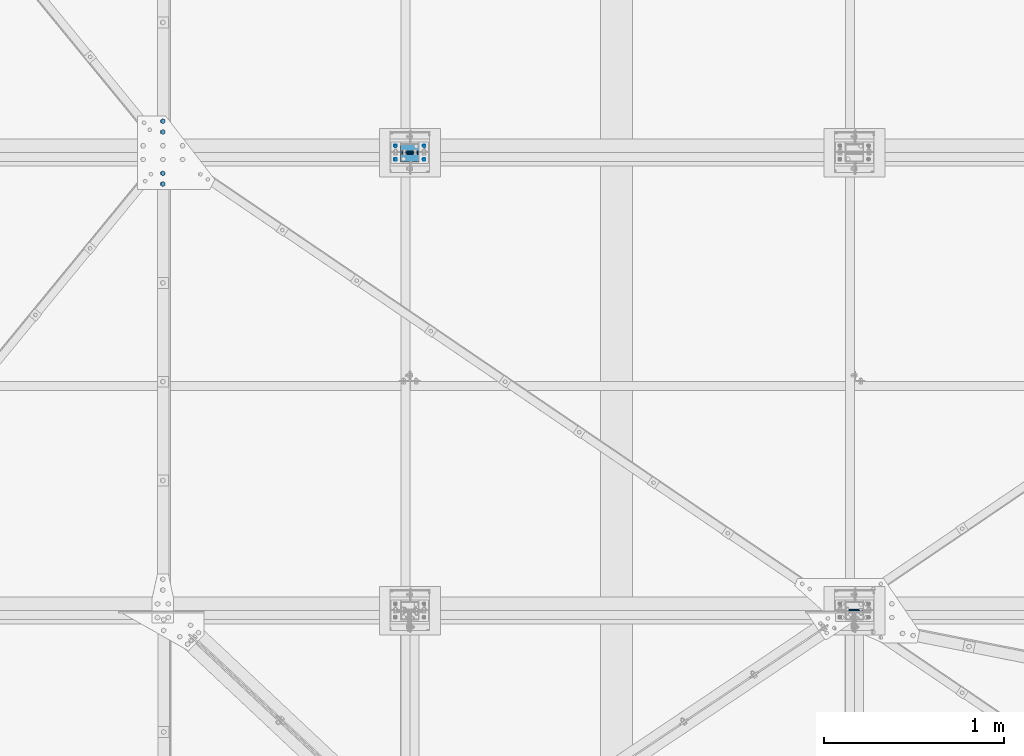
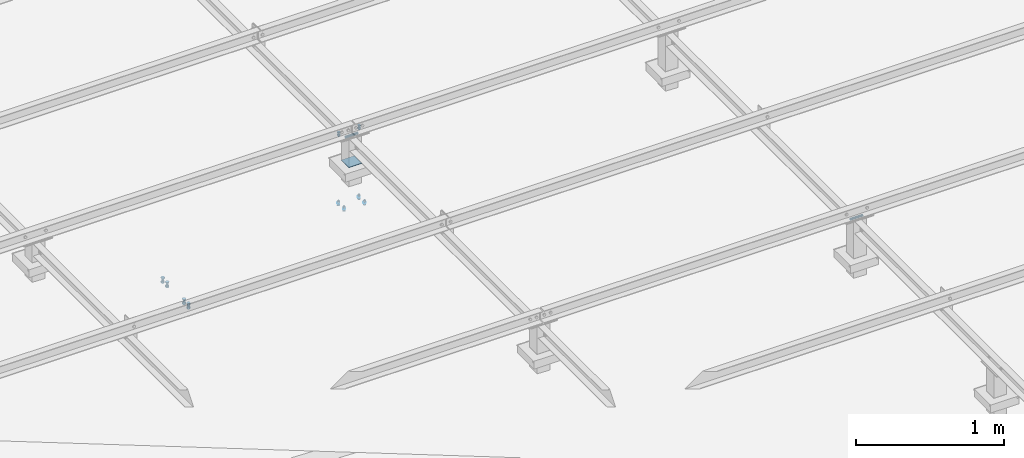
# One storey, part 316 of 3134: 8 mechanical fasteners, 7 elements without a shape of their own.
"""IFC2X3 building model written with IfcOpenShell, lengths in millimetres."""

from ifc_helpers import new_model, si_unit, frame, origin_with_axes, place, context, subcontext, project, spatial, faceted_brep, source, transform, mapped, material, type_object, element, aggregate, save


model = new_model("IFC2X3")

# Units and contexts
model_context = context("Model", 3, precision=1e-05, world=origin_with_axes())
body_context = subcontext(model_context, "Body", "Model", "MODEL_VIEW")
ifc_project = project(units=[si_unit("LENGTHUNIT", "METRE", prefix="MILLI"), si_unit("AREAUNIT", "SQUARE_METRE"), si_unit("VOLUMEUNIT", "CUBIC_METRE"), si_unit("MASSUNIT", "GRAM", prefix="KILO"), si_unit("TIMEUNIT", "SECOND"), si_unit("PLANEANGLEUNIT", "RADIAN"), si_unit("SOLIDANGLEUNIT", "STERADIAN"), si_unit("THERMODYNAMICTEMPERATUREUNIT", "DEGREE_CELSIUS"), si_unit("LUMINOUSINTENSITYUNIT", "LUMEN")], contexts=[model_context])

# Site, building, storey
site_placement = place(None, origin_with_axes())
site = spatial("IfcSite", under=ifc_project, at=site_placement, CompositionType="ELEMENT")
building_placement = place(site_placement, origin_with_axes())
building = spatial("IfcBuilding", under=site, at=building_placement, Name="Undefined", CompositionType="ELEMENT")
storey_placement = place(building_placement, origin_with_axes())
storey = spatial("IfcBuildingStorey", under=building, at=storey_placement, Name="Undefined", CompositionType="ELEMENT", Elevation=0.0)

# Assembly, mechanical fastener
assembly_1_placement = place(storey_placement, origin_with_axes())
assembly_1 = element("IfcElementAssembly", 1, at=assembly_1_placement, inside=storey, AssemblyPlace="NOTDEFINED", PredefinedType="RIGID_FRAME")
ifc_material_1 = material(Name="8.8")
mechanical_fastener_type = type_object("IfcMechanicalFastenerType", Name="Bolt assembly")
shared_shape_1 = source(origin_with_axes(), body_context, "Body", "Brep", [
    faceted_brep([(10.9696551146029, -14.0, 0.0), (5.48482755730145, -14.0, 9.5), (-5.48482755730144, -14.0, 9.5), (-10.9696551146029, -14.0, 1.34339530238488e-15), (-5.48482755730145, -14.0, -9.5), (5.48482755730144, -14.0, -9.50000000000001), (5.48482755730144, -6.0, -9.50000000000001), (-5.48482755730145, -6.0, -9.5), (-10.9696551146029, -6.0, 1.34339530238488e-15), (-5.48482755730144, -6.0, 9.5), (5.48482755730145, -6.0, 9.5), (10.9696551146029, -6.0, 0.0), (6.0, -6.0, 0.0), (5.19615242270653, -6.0, 3.00000000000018), (2.99999999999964, -6.0, 5.19615242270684), (-6.21801588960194e-13, -6.0, 6.0), (-3.00000000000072, -6.0, 5.19615242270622), (-5.19615242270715, -6.0, 2.9999999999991), (-6.0, -6.0, -1.24360317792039e-12), (-5.19615242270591, -6.0, -3.00000000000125), (-2.99999999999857, -6.0, -5.19615242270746), (1.85874342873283e-12, -6.0, -6.0), (3.00000000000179, -6.0, -5.1961524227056), (5.19615242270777, -6.0, -2.99999999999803), (5.19615242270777, 24.0, -2.99999999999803), (3.00000000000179, 24.0, -5.1961524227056), (1.85874342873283e-12, 24.0, -6.0), (-2.99999999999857, 24.0, -5.19615242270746), (-5.19615242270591, 24.0, -3.00000000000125), (-6.0, 24.0, -1.24360317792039e-12), (-5.19615242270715, 24.0, 2.9999999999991), (-3.00000000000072, 24.0, 5.19615242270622), (-6.21801588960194e-13, 24.0, 6.0), (2.99999999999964, 24.0, 5.19615242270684), (5.19615242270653, 24.0, 3.00000000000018), (6.0, 24.0, 0.0), (10.9696551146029, 6.00000000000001, 0.0), (5.48482755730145, 6.00000000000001, 9.5), (-5.48482755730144, 6.00000000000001, 9.5), (-10.9696551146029, 6.00000000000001, 1.34339530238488e-15), (-5.48482755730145, 6.00000000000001, -9.5), (5.48482755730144, 6.00000000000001, -9.50000000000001), (5.48482755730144, 16.0, -9.50000000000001), (-5.48482755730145, 16.0, -9.5), (-10.9696551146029, 16.0, 1.34339530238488e-15), (-5.48482755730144, 16.0, 9.5), (5.48482755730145, 16.0, 9.5), (10.9696551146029, 16.0, 0.0)], [[[0, 1, 2, 3, 4, 5]], [[6, 7, 8, 9, 10, 11]], [[0, 11, 10, 1]], [[1, 10, 9, 2]], [[2, 9, 8, 3]], [[3, 8, 7, 4]], [[4, 7, 6, 5]], [[5, 6, 11, 0]], [[12, 13, 14, 15, 16, 17, 18, 19, 20, 21, 22, 23]], [[24, 25, 26, 27, 28, 29, 30, 31, 32, 33, 34, 35]], [[12, 35, 34, 13]], [[13, 34, 33, 14]], [[14, 33, 32, 15]], [[15, 32, 31, 16]], [[16, 31, 30, 17]], [[17, 30, 29, 18]], [[18, 29, 28, 19]], [[19, 28, 27, 20]], [[20, 27, 26, 21]], [[21, 26, 25, 22]], [[22, 25, 24, 23]], [[23, 24, 35, 12]], [[36, 37, 38, 39, 40, 41]], [[42, 43, 44, 45, 46, 47]], [[36, 47, 46, 37]], [[37, 46, 45, 38]], [[38, 45, 44, 39]], [[39, 44, 43, 40]], [[40, 43, 42, 41]], [[41, 42, 47, 36]]]),
    faceted_brep([(7.0, -0.1, 0.0), (6.06217782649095, -0.1, 3.50000000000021), (3.49999999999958, -0.1, 6.06217782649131), (-7.25435187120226e-13, -0.1, 7.0), (-3.50000000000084, -0.1, 6.06217782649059), (-6.06217782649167, -0.1, 3.49999999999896), (-7.0, -0.1, -1.45087037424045e-12), (-6.06217782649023, -0.1, -3.50000000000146), (-3.49999999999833, -0.1, -6.06217782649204), (2.1685340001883e-12, -0.1, -7.0), (3.50000000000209, -0.1, -6.06217782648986), (6.0621778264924, -0.1, -3.4999999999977), (6.0621778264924, 6.00000000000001, -3.4999999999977), (3.50000000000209, 6.00000000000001, -6.06217782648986), (2.1685340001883e-12, 6.00000000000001, -7.0), (-3.49999999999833, 6.00000000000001, -6.06217782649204), (-6.06217782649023, 6.00000000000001, -3.50000000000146), (-7.0, 6.00000000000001, -1.45087037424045e-12), (-6.06217782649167, 6.00000000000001, 3.49999999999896), (-3.50000000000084, 6.00000000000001, 6.06217782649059), (-7.25435187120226e-13, 6.00000000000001, 7.0), (3.49999999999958, 6.00000000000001, 6.06217782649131), (6.06217782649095, 6.00000000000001, 3.50000000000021), (7.0, 6.00000000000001, 0.0), (7.0, -5.9, 0.0), (6.06217782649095, -5.9, 3.50000000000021), (3.49999999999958, -5.9, 6.06217782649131), (-7.25435187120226e-13, -5.9, 7.0), (-3.50000000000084, -5.9, 6.06217782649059), (-6.06217782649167, -5.9, 3.49999999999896), (-7.0, -5.9, -1.45087037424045e-12), (-6.06217782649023, -5.9, -3.50000000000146), (-3.49999999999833, -5.9, -6.06217782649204), (2.1685340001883e-12, -5.9, -7.0), (3.50000000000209, -5.9, -6.06217782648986), (6.0621778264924, -5.9, -3.4999999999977), (6.0621778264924, 0.0999999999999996, -3.4999999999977), (3.50000000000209, 0.0999999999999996, -6.06217782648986), (2.1685340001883e-12, 0.0999999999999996, -7.0), (-3.49999999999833, 0.0999999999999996, -6.06217782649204), (-6.06217782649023, 0.0999999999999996, -3.50000000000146), (-7.0, 0.0999999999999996, -1.45087037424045e-12), (-6.06217782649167, 0.0999999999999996, 3.49999999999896), (-3.50000000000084, 0.0999999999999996, 6.06217782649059), (-7.25435187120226e-13, 0.0999999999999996, 7.0), (3.49999999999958, 0.0999999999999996, 6.06217782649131), (6.06217782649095, 0.0999999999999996, 3.50000000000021), (7.0, 0.0999999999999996, 0.0)], [[[0, 1, 2, 3, 4, 5, 6, 7, 8, 9, 10, 11]], [[12, 13, 14, 15, 16, 17, 18, 19, 20, 21, 22, 23]], [[0, 23, 22, 1]], [[1, 22, 21, 2]], [[2, 21, 20, 3]], [[3, 20, 19, 4]], [[4, 19, 18, 5]], [[5, 18, 17, 6]], [[6, 17, 16, 7]], [[7, 16, 15, 8]], [[8, 15, 14, 9]], [[9, 14, 13, 10]], [[10, 13, 12, 11]], [[11, 12, 23, 0]], [[24, 25, 26, 27, 28, 29, 30, 31, 32, 33, 34, 35]], [[36, 37, 38, 39, 40, 41, 42, 43, 44, 45, 46, 47]], [[24, 47, 46, 25]], [[25, 46, 45, 26]], [[26, 45, 44, 27]], [[27, 44, 43, 28]], [[28, 43, 42, 29]], [[29, 42, 41, 30]], [[30, 41, 40, 31]], [[31, 40, 39, 32]], [[32, 39, 38, 33]], [[33, 38, 37, 34]], [[34, 37, 36, 35]], [[35, 36, 47, 24]]]),
])
mechanical_fastener_1_placement = place(assembly_1_placement, frame((73075.0, 5135.0, 5850.0), z_axis=(1.0, 0.0, 0.0), x_axis=(0.0, -1.0, 0.0)))
mechanical_fastener_1 = element("IfcMechanicalFastener", 2, at=mechanical_fastener_1_placement, type_object=mechanical_fastener_type, material=ifc_material_1, Name="Bolt assembly", NominalDiameter=12.0, NominalLength=30.0, context=body_context, shape_type="MappedRepresentation", body=[
    mapped(shared_shape_1, transform((0.0, -5.32963895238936e-10, -79.9999999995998))),
    mapped(shared_shape_1, transform((0.0, 5.3114490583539e-10, 79.9999999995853))),
])
aggregate(assembly_1, [mechanical_fastener_1])

assembly_2_placement = place(storey_placement, origin_with_axes())
assembly_2 = element("IfcElementAssembly", 3, at=assembly_2_placement, inside=storey, AssemblyPlace="NOTDEFINED", PredefinedType="RIGID_FRAME")
shared_shape_2 = source(origin_with_axes(), body_context, "Body", "Brep", [
    faceted_brep([(7.0, 13.0000253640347, 0.0), (6.06217782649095, 13.0000253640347, 3.50000000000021), (3.49999999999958, 13.0000253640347, 6.06217782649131), (-7.25435187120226e-13, 13.0000253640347, 7.0), (-3.50000000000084, 13.0000253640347, 6.06217782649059), (-6.06217782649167, 13.0000253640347, 3.49999999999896), (-7.0, 13.0000253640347, -1.45087037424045e-12), (-6.06217782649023, 13.0000253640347, -3.50000000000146), (-3.49999999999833, 13.0000253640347, -6.06217782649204), (2.1685340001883e-12, 13.0000253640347, -7.0), (3.50000000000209, 13.0000253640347, -6.06217782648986), (6.0621778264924, 13.0000253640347, -3.4999999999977), (6.0621778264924, 15.0999999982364, -3.4999999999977), (3.50000000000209, 15.0999999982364, -6.06217782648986), (2.1685340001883e-12, 15.0999999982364, -7.0), (-3.49999999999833, 15.0999999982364, -6.06217782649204), (-6.06217782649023, 15.0999999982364, -3.50000000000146), (-7.0, 15.0999999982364, -1.45087037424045e-12), (-6.06217782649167, 15.0999999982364, 3.49999999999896), (-3.50000000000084, 15.0999999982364, 6.06217782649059), (-7.25435187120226e-13, 15.0999999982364, 7.0), (3.49999999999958, 15.0999999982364, 6.06217782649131), (6.06217782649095, 15.0999999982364, 3.50000000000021), (7.0, 15.0999999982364, 0.0)], [[[0, 1, 2, 3, 4, 5, 6, 7, 8, 9, 10, 11]], [[12, 13, 14, 15, 16, 17, 18, 19, 20, 21, 22, 23]], [[0, 23, 22, 1]], [[1, 22, 21, 2]], [[2, 21, 20, 3]], [[3, 20, 19, 4]], [[4, 19, 18, 5]], [[5, 18, 17, 6]], [[6, 17, 16, 7]], [[7, 16, 15, 8]], [[8, 15, 14, 9]], [[9, 14, 13, 10]], [[10, 13, 12, 11]], [[11, 12, 23, 0]]]),
])
mechanical_fastener_2_placement = place(assembly_2_placement, frame((73074.3451187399, 5138.0, 5255.7372055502), z_axis=(-0.99951962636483, 0.0, 0.0309922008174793), x_axis=(0.0, -1.0, 0.0)))
mechanical_fastener_2 = element("IfcMechanicalFastener", 4, at=mechanical_fastener_2_placement, type_object=mechanical_fastener_type, material=ifc_material_1, Name="Bolt assembly", NominalDiameter=12.0, NominalLength=2.0, context=body_context, shape_type="MappedRepresentation", body=[
    mapped(shared_shape_2, transform((0.0, -5.32963895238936e-10, -79.9999999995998))),
    mapped(shared_shape_2, transform((76.0, -5.32963895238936e-10, -79.9999999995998))),
    mapped(shared_shape_2, transform((0.0, 5.3114490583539e-10, 79.9999999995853))),
    mapped(shared_shape_2, transform((76.0, 5.3114490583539e-10, 79.9999999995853))),
])
aggregate(assembly_2, [mechanical_fastener_2])

assembly_3_placement = place(storey_placement, origin_with_axes())
assembly_3 = element("IfcElementAssembly", 5, at=assembly_3_placement, inside=storey, AssemblyPlace="NOTDEFINED", PredefinedType="RIGID_FRAME")
shared_shape_3 = source(origin_with_axes(), body_context, "Body", "Brep", [
    faceted_brep([(9.0, -50.0, 0.0), (7.79422863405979, -50.0, 4.50000000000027), (4.49999999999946, -50.0, 7.79422863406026), (-9.3270238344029e-13, -50.0, 9.0), (-4.50000000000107, -50.0, 7.79422863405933), (-7.79422863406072, -50.0, 4.49999999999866), (-9.0, -50.0, -1.86540476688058e-12), (-7.79422863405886, -50.0, -4.50000000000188), (-4.49999999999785, -50.0, -7.79422863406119), (2.78811514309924e-12, -50.0, -9.0), (4.50000000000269, -50.0, -7.7942286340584), (7.79422863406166, -50.0, -4.49999999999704), (7.79422863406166, 50.1, -4.49999999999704), (4.50000000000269, 50.1, -7.7942286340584), (2.78811514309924e-12, 50.1, -9.0), (-4.49999999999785, 50.1, -7.79422863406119), (-7.79422863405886, 50.1, -4.50000000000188), (-9.0, 50.1, -1.86540476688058e-12), (-7.79422863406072, 50.1, 4.49999999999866), (-4.50000000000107, 50.1, 7.79422863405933), (-9.3270238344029e-13, 50.1, 9.0), (4.49999999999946, 50.1, 7.79422863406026), (7.79422863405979, 50.1, 4.50000000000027), (9.0, 50.1, 0.0)], [[[0, 1, 2, 3, 4, 5, 6, 7, 8, 9, 10, 11]], [[12, 13, 14, 15, 16, 17, 18, 19, 20, 21, 22, 23]], [[0, 23, 22, 1]], [[1, 22, 21, 2]], [[2, 21, 20, 3]], [[3, 20, 19, 4]], [[4, 19, 18, 5]], [[5, 18, 17, 6]], [[6, 17, 16, 7]], [[7, 16, 15, 8]], [[8, 15, 14, 9]], [[9, 14, 13, 10]], [[10, 13, 12, 11]], [[11, 12, 23, 0]]]),
])
mechanical_fastener_3_placement = place(assembly_3_placement, frame((75550.0, 2550.0, 5830.0), z_axis=(0.0, 1.0, 0.0), x_axis=(0.0, 0.0, 1.0)))
mechanical_fastener_3 = element("IfcMechanicalFastener", 6, at=mechanical_fastener_3_placement, type_object=mechanical_fastener_type, material=ifc_material_1, Name="Bolt assembly", NominalDiameter=16.0, NominalLength=100.0, context=body_context, shape_type="MappedRepresentation", body=[
    mapped(shared_shape_3, transform((0.0, 0.0, 0.0))),
])
aggregate(assembly_3, [mechanical_fastener_3])

# Assembly, mechanical fasteners
assembly_4_placement = place(storey_placement, origin_with_axes())
assembly_4 = element("IfcElementAssembly", 7, at=assembly_4_placement, inside=storey, AssemblyPlace="NOTDEFINED", PredefinedType="RIGID_FRAME")
mechanical_fastener_4_placement = place(assembly_4_placement, frame((73075.0, 5100.0, 5830.0), z_axis=(0.0, 1.0, 0.0), x_axis=(0.0, 0.0, 1.0)))
mechanical_fastener_4 = element("IfcMechanicalFastener", 8, at=mechanical_fastener_4_placement, type_object=mechanical_fastener_type, material=ifc_material_1, Name="Bolt assembly", NominalDiameter=16.0, NominalLength=100.0, context=body_context, shape_type="MappedRepresentation", body=[
    mapped(shared_shape_3, transform((0.0, 0.0, 0.0))),
])
ifc_material_2 = material(Name="6.8")
shared_shape_4 = source(origin_with_axes(), body_context, "Body", "Brep", [
    faceted_brep([(51.5, 1.36424205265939e-12, 50.0), (51.3858192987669, 1.36424205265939e-12, 50.5740251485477), (51.0606601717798, 1.36424205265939e-12, 51.0606601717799), (50.5740251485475, 1.36424205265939e-12, 51.385819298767), (-50.0000000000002, 1.36424205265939e-12, 51.5), (-50.7500000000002, 1.36424205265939e-12, 51.2990381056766), (-51.2990381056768, 1.36424205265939e-12, 50.7499999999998), (-51.5, 1.36424205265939e-12, 49.9999999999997), (-51.5, 1.36424205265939e-12, -50.0000000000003), (-51.2990381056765, 1.36424205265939e-12, -50.7500000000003), (-50.7499999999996, 1.36424205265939e-12, -51.2990381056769), (-49.9999999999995, 1.36424205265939e-12, -51.5), (50.0000000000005, 1.36424205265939e-12, -51.5), (50.7500000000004, 1.36424205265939e-12, -51.2990381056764), (51.2990381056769, 1.36424205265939e-12, -50.7499999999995), (51.5, 1.36424205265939e-12, -49.9999999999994), (51.5, 5.10000000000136, -49.9999999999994), (51.2990381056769, 5.10000000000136, -50.7499999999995), (50.7500000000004, 5.10000000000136, -51.2990381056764), (50.0000000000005, 5.10000000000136, -51.5), (-49.9999999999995, 5.10000000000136, -51.5), (-50.7499999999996, 5.10000000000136, -51.2990381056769), (-51.2990381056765, 5.10000000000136, -50.7500000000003), (-51.5, 5.10000000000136, -50.0000000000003), (-51.5, 5.10000000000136, 49.9999999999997), (-51.2990381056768, 5.10000000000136, 50.7499999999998), (-50.7500000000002, 5.10000000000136, 51.2990381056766), (-50.0000000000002, 5.10000000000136, 51.5), (50.5740251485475, 5.10000000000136, 51.385819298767), (51.0606601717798, 5.10000000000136, 51.0606601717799), (51.3858192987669, 5.10000000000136, 50.5740251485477), (51.5, 5.10000000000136, 50.0)], [[[0, 1, 2, 3, 4, 5, 6, 7, 8, 9, 10, 11, 12, 13, 14, 15]], [[16, 17, 18, 19, 20, 21, 22, 23, 24, 25, 26, 27, 28, 29, 30, 31]], [[0, 31, 30, 1]], [[1, 30, 29, 2]], [[2, 29, 28, 3]], [[3, 28, 27, 4]], [[4, 27, 26, 5]], [[5, 26, 25, 6]], [[6, 25, 24, 7]], [[7, 24, 23, 8]], [[8, 23, 22, 9]], [[9, 22, 21, 10]], [[10, 21, 20, 11]], [[11, 20, 19, 12]], [[12, 19, 18, 13]], [[13, 18, 17, 14]], [[14, 17, 16, 15]], [[15, 16, 31, 0]]]),
])
mechanical_fastener_5_placement = place(assembly_4_placement, frame((73075.0, 5100.0, 5610.44), z_axis=(0.0, -1.0, 0.0), x_axis=(-1.0, 0.0, 0.0)))
mechanical_fastener_5 = element("IfcMechanicalFastener", 9, at=mechanical_fastener_5_placement, type_object=mechanical_fastener_type, material=ifc_material_2, Name="Bolt assembly", NominalDiameter=10.0, NominalLength=5.0, context=body_context, shape_type="MappedRepresentation", body=[
    mapped(shared_shape_4, transform((0.0, 0.0, 0.0))),
])
aggregate(assembly_4, [mechanical_fastener_4, mechanical_fastener_5])

# Assembly, mechanical fastener
assembly_5_placement = place(storey_placement, origin_with_axes())
assembly_5 = element("IfcElementAssembly", 10, at=assembly_5_placement, inside=storey, Name="300", AssemblyPlace="NOTDEFINED", PredefinedType="RIGID_FRAME")
shared_shape_5 = source(origin_with_axes(), body_context, "Body", "Brep", [
    faceted_brep([(10.9696551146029, -10.2005277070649, 0.0), (5.48482755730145, -10.2005277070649, 9.5), (-5.48482755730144, -10.2005277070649, 9.5), (-10.9696551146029, -10.2005277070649, 1.34339530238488e-15), (-5.48482755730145, -10.2005277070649, -9.5), (5.48482755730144, -10.2005277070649, -9.50000000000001), (5.48482755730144, -2.20052770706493, -9.50000000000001), (-5.48482755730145, -2.20052770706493, -9.5), (-10.9696551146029, -2.20052770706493, 1.34339530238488e-15), (-5.48482755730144, -2.20052770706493, 9.5), (5.48482755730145, -2.20052770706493, 9.5), (10.9696551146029, -2.20052770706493, 0.0), (6.0, -2.20052770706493, 0.0), (5.19615242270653, -2.20052770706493, 3.00000000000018), (2.99999999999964, -2.20052770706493, 5.19615242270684), (-6.21801588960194e-13, -2.20052770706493, 6.0), (-3.00000000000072, -2.20052770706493, 5.19615242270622), (-5.19615242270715, -2.20052770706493, 2.9999999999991), (-6.0, -2.20052770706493, -1.24360317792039e-12), (-5.19615242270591, -2.20052770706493, -3.00000000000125), (-2.99999999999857, -2.20052770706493, -5.19615242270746), (1.85874342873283e-12, -2.20052770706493, -6.0), (3.00000000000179, -2.20052770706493, -5.1961524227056), (5.19615242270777, -2.20052770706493, -2.99999999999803), (5.19615242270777, 32.7994722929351, -2.99999999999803), (3.00000000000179, 32.7994722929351, -5.1961524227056), (1.85874342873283e-12, 32.7994722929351, -6.0), (-2.99999999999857, 32.7994722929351, -5.19615242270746), (-5.19615242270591, 32.7994722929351, -3.00000000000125), (-6.0, 32.7994722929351, -1.24360317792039e-12), (-5.19615242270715, 32.7994722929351, 2.9999999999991), (-3.00000000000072, 32.7994722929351, 5.19615242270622), (-6.21801588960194e-13, 32.7994722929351, 6.0), (2.99999999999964, 32.7994722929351, 5.19615242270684), (5.19615242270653, 32.7994722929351, 3.00000000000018), (6.0, 32.7994722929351, 0.0), (10.9696551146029, 17.0008987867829, 0.0), (5.48482755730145, 17.0008987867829, 9.5), (-5.48482755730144, 17.0008987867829, 9.5), (-10.9696551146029, 17.0008987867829, 1.34339530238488e-15), (-5.48482755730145, 17.0008987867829, -9.5), (5.48482755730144, 17.0008987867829, -9.50000000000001), (5.48482755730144, 27.0008987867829, -9.50000000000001), (-5.48482755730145, 27.0008987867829, -9.5), (-10.9696551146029, 27.0008987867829, 1.34339530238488e-15), (-5.48482755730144, 27.0008987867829, 9.5), (5.48482755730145, 27.0008987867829, 9.5), (10.9696551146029, 27.0008987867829, 0.0)], [[[0, 1, 2, 3, 4, 5]], [[6, 7, 8, 9, 10, 11]], [[0, 11, 10, 1]], [[1, 10, 9, 2]], [[2, 9, 8, 3]], [[3, 8, 7, 4]], [[4, 7, 6, 5]], [[5, 6, 11, 0]], [[12, 13, 14, 15, 16, 17, 18, 19, 20, 21, 22, 23]], [[24, 25, 26, 27, 28, 29, 30, 31, 32, 33, 34, 35]], [[12, 35, 34, 13]], [[13, 34, 33, 14]], [[14, 33, 32, 15]], [[15, 32, 31, 16]], [[16, 31, 30, 17]], [[17, 30, 29, 18]], [[18, 29, 28, 19]], [[19, 28, 27, 20]], [[20, 27, 26, 21]], [[21, 26, 25, 22]], [[22, 25, 24, 23]], [[23, 24, 35, 12]], [[36, 37, 38, 39, 40, 41]], [[42, 43, 44, 45, 46, 47]], [[36, 47, 46, 37]], [[37, 46, 45, 38]], [[38, 45, 44, 39]], [[39, 44, 43, 40]], [[40, 43, 42, 41]], [[41, 42, 47, 36]]]),
    faceted_brep([(7.0, 8.90089878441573, 0.0), (6.06217782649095, 8.90089878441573, 3.50000000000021), (3.49999999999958, 8.90089878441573, 6.06217782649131), (-7.25435187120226e-13, 8.90089878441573, 7.0), (-3.50000000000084, 8.90089878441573, 6.06217782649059), (-6.06217782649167, 8.90089878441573, 3.49999999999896), (-7.0, 8.90089878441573, -1.45087037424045e-12), (-6.06217782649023, 8.90089878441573, -3.50000000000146), (-3.49999999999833, 8.90089878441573, -6.06217782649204), (2.1685340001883e-12, 8.90089878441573, -7.0), (3.50000000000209, 8.90089878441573, -6.06217782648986), (6.0621778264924, 8.90089878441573, -3.4999999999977), (6.0621778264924, 17.0008987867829, -3.4999999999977), (3.50000000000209, 17.0008987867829, -6.06217782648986), (2.1685340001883e-12, 17.0008987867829, -7.0), (-3.49999999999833, 17.0008987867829, -6.06217782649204), (-6.06217782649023, 17.0008987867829, -3.50000000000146), (-7.0, 17.0008987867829, -1.45087037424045e-12), (-6.06217782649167, 17.0008987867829, 3.49999999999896), (-3.50000000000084, 17.0008987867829, 6.06217782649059), (-7.25435187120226e-13, 17.0008987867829, 7.0), (3.49999999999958, 17.0008987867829, 6.06217782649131), (6.06217782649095, 17.0008987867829, 3.50000000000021), (7.0, 17.0008987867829, 0.0), (7.0, -2.10052770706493, 0.0), (6.06217782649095, -2.10052770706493, 3.50000000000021), (3.49999999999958, -2.10052770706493, 6.06217782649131), (-7.25435187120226e-13, -2.10052770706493, 7.0), (-3.50000000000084, -2.10052770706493, 6.06217782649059), (-6.06217782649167, -2.10052770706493, 3.49999999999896), (-7.0, -2.10052770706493, -1.45087037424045e-12), (-6.06217782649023, -2.10052770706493, -3.50000000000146), (-3.49999999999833, -2.10052770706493, -6.06217782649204), (2.1685340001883e-12, -2.10052770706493, -7.0), (3.50000000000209, -2.10052770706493, -6.06217782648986), (6.0621778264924, -2.10052770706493, -3.4999999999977), (6.0621778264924, 7.09947210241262, -3.4999999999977), (3.50000000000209, 7.09947210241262, -6.06217782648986), (2.1685340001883e-12, 7.09947210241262, -7.0), (-3.49999999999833, 7.09947210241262, -6.06217782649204), (-6.06217782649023, 7.09947210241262, -3.50000000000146), (-7.0, 7.09947210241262, -1.45087037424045e-12), (-6.06217782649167, 7.09947210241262, 3.49999999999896), (-3.50000000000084, 7.09947210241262, 6.06217782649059), (-7.25435187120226e-13, 7.09947210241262, 7.0), (3.49999999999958, 7.09947210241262, 6.06217782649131), (6.06217782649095, 7.09947210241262, 3.50000000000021), (7.0, 7.09947210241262, 0.0)], [[[0, 1, 2, 3, 4, 5, 6, 7, 8, 9, 10, 11]], [[12, 13, 14, 15, 16, 17, 18, 19, 20, 21, 22, 23]], [[0, 23, 22, 1]], [[1, 22, 21, 2]], [[2, 21, 20, 3]], [[3, 20, 19, 4]], [[4, 19, 18, 5]], [[5, 18, 17, 6]], [[6, 17, 16, 7]], [[7, 16, 15, 8]], [[8, 15, 14, 9]], [[9, 14, 13, 10]], [[10, 13, 12, 11]], [[11, 12, 23, 0]], [[24, 25, 26, 27, 28, 29, 30, 31, 32, 33, 34, 35]], [[36, 37, 38, 39, 40, 41, 42, 43, 44, 45, 46, 47]], [[24, 47, 46, 25]], [[25, 46, 45, 26]], [[26, 45, 44, 27]], [[27, 44, 43, 28]], [[28, 43, 42, 29]], [[29, 42, 41, 30]], [[30, 41, 40, 31]], [[31, 40, 39, 32]], [[32, 39, 38, 33]], [[33, 38, 37, 34]], [[34, 37, 36, 35]], [[35, 36, 47, 24]]]),
])
mechanical_fastener_6_placement = place(assembly_5_placement, frame((73074.5351187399, 5138.0, 5261.7372055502), z_axis=(-0.99951962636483, 0.0, 0.0309922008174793), x_axis=(0.0, -1.0, 0.0)))
mechanical_fastener_6 = element("IfcMechanicalFastener", 11, at=mechanical_fastener_6_placement, type_object=mechanical_fastener_type, material=ifc_material_1, Name="Bolt assembly", NominalDiameter=12.0, NominalLength=35.0, context=body_context, shape_type="MappedRepresentation", body=[
    mapped(shared_shape_5, transform((0.0, -5.32963895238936e-10, -79.9999999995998))),
    mapped(shared_shape_5, transform((76.0, -5.32963895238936e-10, -79.9999999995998))),
    mapped(shared_shape_5, transform((0.0, 5.3114490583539e-10, 79.9999999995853))),
    mapped(shared_shape_5, transform((76.0, 5.3114490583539e-10, 79.9999999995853))),
])
aggregate(assembly_5, [mechanical_fastener_6])

assembly_6_placement = place(storey_placement, origin_with_axes())
assembly_6 = element("IfcElementAssembly", 12, at=assembly_6_placement, inside=storey, AssemblyPlace="NOTDEFINED", PredefinedType="RIGID_FRAME")
shared_shape_6 = source(origin_with_axes(), body_context, "Body", "Brep", [
    faceted_brep([(13.856406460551, -21.0000017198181, 0.0), (6.92820323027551, -21.0000017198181, 12.0), (-6.92820323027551, -21.0000017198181, 12.0), (-13.856406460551, -21.0000017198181, 1.69692038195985e-15), (-6.92820323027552, -21.0000017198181, -12.0), (6.9282032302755, -21.0000017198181, -12.0), (6.9282032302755, -11.0000017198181, -12.0), (-6.92820323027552, -11.0000017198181, -12.0), (-13.856406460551, -11.0000017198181, 1.69692038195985e-15), (-6.92820323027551, -11.0000017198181, 12.0), (6.92820323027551, -11.0000017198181, 12.0), (13.856406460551, -11.0000017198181, 0.0), (8.0, -11.0000017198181, 0.0), (6.92820323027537, -11.0000017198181, 4.00000000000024), (3.99999999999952, -11.0000017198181, 6.92820323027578), (-8.29068785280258e-13, -11.0000017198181, 8.0), (-4.00000000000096, -11.0000017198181, 6.92820323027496), (-6.9282032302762, -11.0000017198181, 3.99999999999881), (-8.0, -11.0000017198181, -1.65813757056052e-12), (-6.92820323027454, -11.0000017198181, -4.00000000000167), (-3.99999999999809, -11.0000017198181, -6.92820323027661), (2.47832457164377e-12, -11.0000017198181, -8.0), (4.00000000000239, -11.0000017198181, -6.92820323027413), (6.92820323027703, -11.0000017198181, -3.99999999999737), (6.92820323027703, 29.0, -3.99999999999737), (4.00000000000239, 29.0, -6.92820323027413), (2.47832457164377e-12, 29.0, -8.0), (-3.99999999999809, 29.0, -6.92820323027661), (-6.92820323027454, 29.0, -4.00000000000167), (-8.0, 29.0, -1.65813757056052e-12), (-6.9282032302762, 29.0, 3.99999999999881), (-4.00000000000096, 29.0, 6.92820323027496), (-8.29068785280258e-13, 29.0, 8.0), (3.99999999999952, 29.0, 6.92820323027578), (6.92820323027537, 29.0, 4.00000000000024), (8.0, 29.0, 0.0), (13.856406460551, 10.9979999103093, 0.0), (6.92820323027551, 10.9979999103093, 12.0), (-6.92820323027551, 10.9979999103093, 12.0), (-13.856406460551, 10.9979999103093, 1.69692038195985e-15), (-6.92820323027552, 10.9979999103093, -12.0), (6.9282032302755, 10.9979999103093, -12.0), (6.9282032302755, 23.9979999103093, -12.0), (-6.92820323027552, 23.9979999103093, -12.0), (-13.856406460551, 23.9979999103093, 1.69692038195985e-15), (-6.92820323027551, 23.9979999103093, 12.0), (6.92820323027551, 23.9979999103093, 12.0), (13.856406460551, 23.9979999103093, 0.0)], [[[0, 1, 2, 3, 4, 5]], [[6, 7, 8, 9, 10, 11]], [[0, 11, 10, 1]], [[1, 10, 9, 2]], [[2, 9, 8, 3]], [[3, 8, 7, 4]], [[4, 7, 6, 5]], [[5, 6, 11, 0]], [[12, 13, 14, 15, 16, 17, 18, 19, 20, 21, 22, 23]], [[24, 25, 26, 27, 28, 29, 30, 31, 32, 33, 34, 35]], [[12, 35, 34, 13]], [[13, 34, 33, 14]], [[14, 33, 32, 15]], [[15, 32, 31, 16]], [[16, 31, 30, 17]], [[17, 30, 29, 18]], [[18, 29, 28, 19]], [[19, 28, 27, 20]], [[20, 27, 26, 21]], [[21, 26, 25, 22]], [[22, 25, 24, 23]], [[23, 24, 35, 12]], [[36, 37, 38, 39, 40, 41]], [[42, 43, 44, 45, 46, 47]], [[36, 47, 46, 37]], [[37, 46, 45, 38]], [[38, 45, 44, 39]], [[39, 44, 43, 40]], [[40, 43, 42, 41]], [[41, 42, 47, 36]]]),
    faceted_brep([(9.0, -10.9000017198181, 0.0), (7.79422863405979, -10.9000017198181, 4.50000000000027), (4.49999999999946, -10.9000017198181, 7.79422863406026), (-9.3270238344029e-13, -10.9000017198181, 9.0), (-4.50000000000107, -10.9000017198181, 7.79422863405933), (-7.79422863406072, -10.9000017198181, 4.49999999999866), (-9.0, -10.9000017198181, -1.86540476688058e-12), (-7.79422863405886, -10.9000017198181, -4.50000000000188), (-4.49999999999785, -10.9000017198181, -7.79422863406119), (2.78811514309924e-12, -10.9000017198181, -9.0), (4.50000000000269, -10.9000017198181, -7.7942286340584), (7.79422863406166, -10.9000017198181, -4.49999999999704), (7.79422863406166, -3.9, -4.49999999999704), (4.50000000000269, -3.9, -7.7942286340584), (2.78811514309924e-12, -3.9, -9.0), (-4.49999999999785, -3.9, -7.79422863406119), (-7.79422863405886, -3.9, -4.50000000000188), (-9.0, -3.9, -1.86540476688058e-12), (-7.79422863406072, -3.9, 4.49999999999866), (-4.50000000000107, -3.9, 7.79422863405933), (-9.3270238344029e-13, -3.9, 9.0), (4.49999999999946, -3.9, 7.79422863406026), (7.79422863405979, -3.9, 4.50000000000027), (9.0, -3.9, 0.0), (9.0, 3.89799991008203, 0.0), (7.79422863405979, 3.89799991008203, 4.50000000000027), (4.49999999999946, 3.89799991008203, 7.79422863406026), (-9.3270238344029e-13, 3.89799991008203, 9.0), (-4.50000000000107, 3.89799991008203, 7.79422863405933), (-7.79422863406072, 3.89799991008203, 4.49999999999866), (-9.0, 3.89799991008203, -1.86540476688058e-12), (-7.79422863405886, 3.89799991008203, -4.50000000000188), (-4.49999999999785, 3.89799991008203, -7.79422863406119), (2.78811514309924e-12, 3.89799991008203, -9.0), (4.50000000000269, 3.89799991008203, -7.7942286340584), (7.79422863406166, 3.89799991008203, -4.49999999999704), (7.79422863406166, 10.9979999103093, -4.49999999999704), (4.50000000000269, 10.9979999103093, -7.7942286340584), (2.78811514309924e-12, 10.9979999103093, -9.0), (-4.49999999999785, 10.9979999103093, -7.79422863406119), (-7.79422863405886, 10.9979999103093, -4.50000000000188), (-9.0, 10.9979999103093, -1.86540476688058e-12), (-7.79422863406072, 10.9979999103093, 4.49999999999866), (-4.50000000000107, 10.9979999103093, 7.79422863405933), (-9.3270238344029e-13, 10.9979999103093, 9.0), (4.49999999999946, 10.9979999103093, 7.79422863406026), (7.79422863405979, 10.9979999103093, 4.50000000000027), (9.0, 10.9979999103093, 0.0), (9.0, -3.99999624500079, 0.0), (7.79422863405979, -3.99999624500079, 4.50000000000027), (4.49999999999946, -3.99999624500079, 7.79422863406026), (-9.3270238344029e-13, -3.99999624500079, 9.0), (-4.50000000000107, -3.99999624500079, 7.79422863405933), (-7.79422863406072, -3.99999624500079, 4.49999999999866), (-9.0, -3.99999624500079, -1.86540476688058e-12), (-7.79422863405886, -3.99999624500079, -4.50000000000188), (-4.49999999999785, -3.99999624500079, -7.79422863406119), (2.78811514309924e-12, -3.99999624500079, -9.0), (4.50000000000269, -3.99999624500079, -7.7942286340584), (7.79422863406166, -3.99999624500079, -4.49999999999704), (7.79422863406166, 4.00000375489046, -4.49999999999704), (4.50000000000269, 4.00000375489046, -7.7942286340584), (2.78811514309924e-12, 4.00000375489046, -9.0), (-4.49999999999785, 4.00000375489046, -7.79422863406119), (-7.79422863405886, 4.00000375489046, -4.50000000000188), (-9.0, 4.00000375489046, -1.86540476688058e-12), (-7.79422863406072, 4.00000375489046, 4.49999999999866), (-4.50000000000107, 4.00000375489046, 7.79422863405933), (-9.3270238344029e-13, 4.00000375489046, 9.0), (4.49999999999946, 4.00000375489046, 7.79422863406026), (7.79422863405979, 4.00000375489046, 4.50000000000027), (9.0, 4.00000375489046, 0.0)], [[[0, 1, 2, 3, 4, 5, 6, 7, 8, 9, 10, 11]], [[12, 13, 14, 15, 16, 17, 18, 19, 20, 21, 22, 23]], [[0, 23, 22, 1]], [[1, 22, 21, 2]], [[2, 21, 20, 3]], [[3, 20, 19, 4]], [[4, 19, 18, 5]], [[5, 18, 17, 6]], [[6, 17, 16, 7]], [[7, 16, 15, 8]], [[8, 15, 14, 9]], [[9, 14, 13, 10]], [[10, 13, 12, 11]], [[11, 12, 23, 0]], [[24, 25, 26, 27, 28, 29, 30, 31, 32, 33, 34, 35]], [[36, 37, 38, 39, 40, 41, 42, 43, 44, 45, 46, 47]], [[24, 47, 46, 25]], [[25, 46, 45, 26]], [[26, 45, 44, 27]], [[27, 44, 43, 28]], [[28, 43, 42, 29]], [[29, 42, 41, 30]], [[30, 41, 40, 31]], [[31, 40, 39, 32]], [[32, 39, 38, 33]], [[33, 38, 37, 34]], [[34, 37, 36, 35]], [[35, 36, 47, 24]], [[48, 49, 50, 51, 52, 53, 54, 55, 56, 57, 58, 59]], [[60, 61, 62, 63, 64, 65, 66, 67, 68, 69, 70, 71]], [[48, 71, 70, 49]], [[49, 70, 69, 50]], [[50, 69, 68, 51]], [[51, 68, 67, 52]], [[52, 67, 66, 53]], [[53, 66, 65, 54]], [[54, 65, 64, 55]], [[55, 64, 63, 56]], [[56, 63, 62, 57]], [[57, 62, 61, 58]], [[58, 61, 60, 59]], [[59, 60, 71, 48]]]),
])
mechanical_fastener_7_placement = place(assembly_6_placement, frame((71700.0552170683, 5214.99999999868, 5010.20374992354), z_axis=(-0.999519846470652, 0.0, 0.0309851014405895), x_axis=(0.0, 1.0, 0.0)))
mechanical_fastener_7 = element("IfcMechanicalFastener", 13, at=mechanical_fastener_7_placement, type_object=mechanical_fastener_type, material=ifc_material_1, Name="Bolt assembly", NominalDiameter=16.0, NominalLength=40.0, context=body_context, shape_type="MappedRepresentation", body=[
    mapped(shared_shape_6, transform((0.0, 0.0, 0.0))),
    mapped(shared_shape_6, transform((59.9999999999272, 0.0, 5.40239852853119e-10))),
])
aggregate(assembly_6, [mechanical_fastener_7])

assembly_7_placement = place(storey_placement, origin_with_axes())
assembly_7 = element("IfcElementAssembly", 14, at=assembly_7_placement, inside=storey, AssemblyPlace="NOTDEFINED", PredefinedType="RIGID_FRAME")
mechanical_fastener_8_placement = place(assembly_7_placement, frame((71700.0552170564, 4984.99999999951, 5010.20374992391), z_axis=(0.999519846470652, 0.0, -0.0309851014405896), x_axis=(0.0, -1.0, 0.0)))
mechanical_fastener_8 = element("IfcMechanicalFastener", 15, at=mechanical_fastener_8_placement, type_object=mechanical_fastener_type, material=ifc_material_1, Name="Bolt assembly", NominalDiameter=16.0, NominalLength=40.0, context=body_context, shape_type="MappedRepresentation", body=[
    mapped(shared_shape_6, transform((0.0, 0.0, 0.0))),
    mapped(shared_shape_6, transform((59.9999999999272, 0.0, 5.40239852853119e-10))),
])
aggregate(assembly_7, [mechanical_fastener_8])

save(model, "model.ifc")
